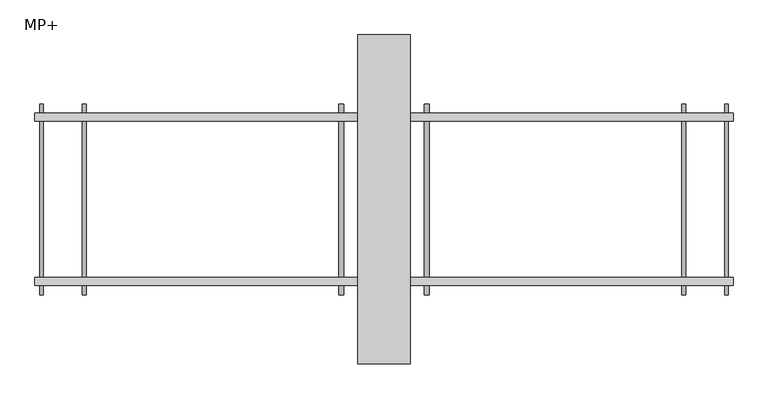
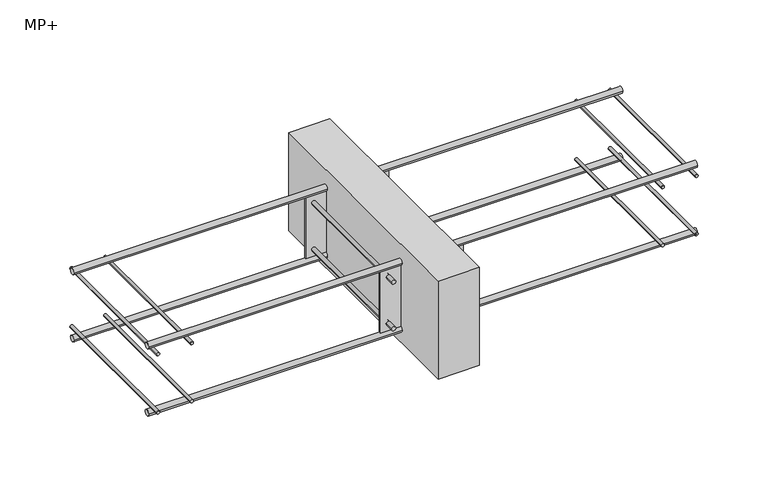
"""IFC4 building model written with IfcOpenShell, lengths in millimetres: fastener geometry, ACINOXplus_Typenreihe_M : MP+."""

from ifc_helpers import new_model, si_unit, point, frame, frame_2d, origin, place, context, project, spatial, polyline, circle_curve, trimmed, segment, composite_curve, outline, extrude, source, transform, mapped, element, save


def mp_b869bb2f(model_context):
    return source(origin(), model_context, "Body", "SweptSolid", [
        extrude(outline(polyline([(40.0, 250.0), (40.0, -250.0), (-40.0, -250.0), (-40.0, 250.0), (40.0, 250.0)])), frame((0.0, 0.0, -200.0), z_axis=(0.0, 0.0, 1.0), x_axis=(1.0, 0.0, 0.0)), (0.0, 0.0, 1.0), 200.0),
        extrude(outline(polyline([(80.0, -123.5), (80.0, -126.5), (-80.0, -126.5), (-80.0, -123.5), (80.0, -123.5)])), frame((0.0, 0.0, -167.0), z_axis=(0.0, 0.0, 1.0), x_axis=(1.0, 0.0, 0.0)), (0.0, 0.0, 1.0), 125.0),
        extrude(outline(polyline([(80.0, 126.5), (80.0, 123.5), (-80.0, 123.5), (-80.0, 126.5), (80.0, 126.5)])), frame((0.0, 0.0, -167.0), z_axis=(0.0, 0.0, 1.0), x_axis=(1.0, 0.0, 0.0)), (0.0, 0.0, 1.0), 125.0),
        extrude(outline(composite_curve([segment(trimmed(circle_curve(frame_2d((-152.0, -65.0)), 4.0), [point((-152.0, -69.0))], [point((-152.0, -61.0))], False, "CARTESIAN"), True, "CONTINUOUS"), segment(trimmed(circle_curve(frame_2d((-152.0, -65.0)), 4.0), [point((-152.0, -61.0))], [point((-152.0, -69.0))], False, "CARTESIAN"), True, "CONTINUOUS")], self_intersect=False)), frame((0.0, 126.5, 0.0), z_axis=(0.0, 1.0, 0.0), x_axis=(0.0, 0.0, 1.0)), (0.0, 0.0, 1.0), 18.5),
        extrude(outline(composite_curve([segment(trimmed(circle_curve(frame_2d((-152.0, -65.0)), 4.0), [point((-152.0, -61.0))], [point((-152.0, -69.0))], False, "CARTESIAN"), True, "CONTINUOUS"), segment(trimmed(circle_curve(frame_2d((-152.0, -65.0)), 4.0), [point((-152.0, -69.0))], [point((-152.0, -61.0))], False, "CARTESIAN"), True, "CONTINUOUS")], self_intersect=False)), frame((0.0, -145.0, 0.0), z_axis=(0.0, 1.0, 0.0), x_axis=(0.0, 0.0, 1.0)), (0.0, 0.0, 1.0), 18.5),
        extrude(outline(composite_curve([segment(trimmed(circle_curve(frame_2d((-152.0, -65.0)), 4.0), [point((-152.0, -69.0))], [point((-152.0, -61.0))], False, "CARTESIAN"), True, "CONTINUOUS"), segment(trimmed(circle_curve(frame_2d((-152.0, -65.0)), 4.0), [point((-152.0, -61.0))], [point((-152.0, -69.0))], False, "CARTESIAN"), True, "CONTINUOUS")], self_intersect=False)), frame((0.0, -123.5, 0.0), z_axis=(0.0, 1.0, 0.0), x_axis=(0.0, 0.0, 1.0)), (0.0, 0.0, 1.0), 247.0),
        extrude(outline(composite_curve([segment(trimmed(circle_curve(frame_2d((-152.0, 65.0)), 4.0), [point((-152.0, 61.0))], [point((-152.0, 69.0))], False, "CARTESIAN"), True, "CONTINUOUS"), segment(trimmed(circle_curve(frame_2d((-152.0, 65.0)), 4.0), [point((-152.0, 69.0))], [point((-152.0, 61.0))], False, "CARTESIAN"), True, "CONTINUOUS")], self_intersect=False)), frame((0.0, 126.5, 0.0), z_axis=(0.0, 1.0, 0.0), x_axis=(0.0, 0.0, 1.0)), (0.0, 0.0, 1.0), 18.5),
        extrude(outline(composite_curve([segment(trimmed(circle_curve(frame_2d((-152.0, 65.0)), 4.0), [point((-152.0, 69.0))], [point((-152.0, 61.0))], False, "CARTESIAN"), True, "CONTINUOUS"), segment(trimmed(circle_curve(frame_2d((-152.0, 65.0)), 4.0), [point((-152.0, 61.0))], [point((-152.0, 69.0))], False, "CARTESIAN"), True, "CONTINUOUS")], self_intersect=False)), frame((0.0, -145.0, 0.0), z_axis=(0.0, 1.0, 0.0), x_axis=(0.0, 0.0, 1.0)), (0.0, 0.0, 1.0), 18.5),
        extrude(outline(composite_curve([segment(trimmed(circle_curve(frame_2d((-152.0, 65.0)), 4.0), [point((-152.0, 61.0))], [point((-152.0, 69.0))], False, "CARTESIAN"), True, "CONTINUOUS"), segment(trimmed(circle_curve(frame_2d((-152.0, 65.0)), 4.0), [point((-152.0, 69.0))], [point((-152.0, 61.0))], False, "CARTESIAN"), True, "CONTINUOUS")], self_intersect=False)), frame((0.0, -123.5, 0.0), z_axis=(0.0, 1.0, 0.0), x_axis=(0.0, 0.0, 1.0)), (0.0, 0.0, 1.0), 247.0),
        extrude(outline(composite_curve([segment(trimmed(circle_curve(frame_2d((-57.0, -65.0)), 4.0), [point((-57.0, -69.0))], [point((-57.0, -61.0))], False, "CARTESIAN"), True, "CONTINUOUS"), segment(trimmed(circle_curve(frame_2d((-57.0, -65.0)), 4.0), [point((-57.0, -61.0))], [point((-57.0, -69.0))], False, "CARTESIAN"), True, "CONTINUOUS")], self_intersect=False)), frame((0.0, 126.5, 0.0), z_axis=(0.0, 1.0, 0.0), x_axis=(0.0, 0.0, 1.0)), (0.0, 0.0, 1.0), 18.5),
        extrude(outline(composite_curve([segment(trimmed(circle_curve(frame_2d((-57.0, -65.0)), 4.0), [point((-57.0, -61.0))], [point((-57.0, -69.0))], False, "CARTESIAN"), True, "CONTINUOUS"), segment(trimmed(circle_curve(frame_2d((-57.0, -65.0)), 4.0), [point((-57.0, -69.0))], [point((-57.0, -61.0))], False, "CARTESIAN"), True, "CONTINUOUS")], self_intersect=False)), frame((0.0, -145.0, 0.0), z_axis=(0.0, 1.0, 0.0), x_axis=(0.0, 0.0, 1.0)), (0.0, 0.0, 1.0), 18.5),
        extrude(outline(composite_curve([segment(trimmed(circle_curve(frame_2d((-57.0, -65.0)), 4.0), [point((-57.0, -69.0))], [point((-57.0, -61.0))], False, "CARTESIAN"), True, "CONTINUOUS"), segment(trimmed(circle_curve(frame_2d((-57.0, -65.0)), 4.0), [point((-57.0, -61.0))], [point((-57.0, -69.0))], False, "CARTESIAN"), True, "CONTINUOUS")], self_intersect=False)), frame((0.0, -123.5, 0.0), z_axis=(0.0, 1.0, 0.0), x_axis=(0.0, 0.0, 1.0)), (0.0, 0.0, 1.0), 247.0),
        extrude(outline(composite_curve([segment(trimmed(circle_curve(frame_2d((-57.0, 65.0)), 4.0), [point((-57.0, 61.0))], [point((-57.0, 69.0))], False, "CARTESIAN"), True, "CONTINUOUS"), segment(trimmed(circle_curve(frame_2d((-57.0, 65.0)), 4.0), [point((-57.0, 69.0))], [point((-57.0, 61.0))], False, "CARTESIAN"), True, "CONTINUOUS")], self_intersect=False)), frame((0.0, 126.5, 0.0), z_axis=(0.0, 1.0, 0.0), x_axis=(0.0, 0.0, 1.0)), (0.0, 0.0, 1.0), 18.5),
        extrude(outline(composite_curve([segment(trimmed(circle_curve(frame_2d((-57.0, 65.0)), 4.0), [point((-57.0, 69.0))], [point((-57.0, 61.0))], False, "CARTESIAN"), True, "CONTINUOUS"), segment(trimmed(circle_curve(frame_2d((-57.0, 65.0)), 4.0), [point((-57.0, 61.0))], [point((-57.0, 69.0))], False, "CARTESIAN"), True, "CONTINUOUS")], self_intersect=False)), frame((0.0, -145.0, 0.0), z_axis=(0.0, 1.0, 0.0), x_axis=(0.0, 0.0, 1.0)), (0.0, 0.0, 1.0), 18.5),
        extrude(outline(composite_curve([segment(trimmed(circle_curve(frame_2d((-57.0, 65.0)), 4.0), [point((-57.0, 61.0))], [point((-57.0, 69.0))], False, "CARTESIAN"), True, "CONTINUOUS"), segment(trimmed(circle_curve(frame_2d((-57.0, 65.0)), 4.0), [point((-57.0, 69.0))], [point((-57.0, 61.0))], False, "CARTESIAN"), True, "CONTINUOUS")], self_intersect=False)), frame((0.0, -123.5, 0.0), z_axis=(0.0, 1.0, 0.0), x_axis=(0.0, 0.0, 1.0)), (0.0, 0.0, 1.0), 247.0),
        extrude(outline(composite_curve([segment(trimmed(circle_curve(frame_2d((125.0, -173.0)), 6.0), [point((119.0, -173.0))], [point((131.0, -173.0))], False, "CARTESIAN"), True, "CONTINUOUS"), segment(trimmed(circle_curve(frame_2d((125.0, -173.0)), 6.0), [point((131.0, -173.0))], [point((119.0, -173.0))], False, "CARTESIAN"), True, "CONTINUOUS")], self_intersect=False)), frame((-530.0, 0.0, 0.0), z_axis=(1.0, 0.0, 0.0), x_axis=(0.0, 1.0, 0.0)), (0.0, 0.0, 1.0), 1060.0),
        extrude(outline(composite_curve([segment(trimmed(circle_curve(frame_2d((-125.0, -173.0)), 6.0), [point((-131.0, -173.0))], [point((-119.0, -173.0))], False, "CARTESIAN"), True, "CONTINUOUS"), segment(trimmed(circle_curve(frame_2d((-125.0, -173.0)), 6.0), [point((-119.0, -173.0))], [point((-131.0, -173.0))], False, "CARTESIAN"), True, "CONTINUOUS")], self_intersect=False)), frame((-530.0, 0.0, 0.0), z_axis=(1.0, 0.0, 0.0), x_axis=(0.0, 1.0, 0.0)), (0.0, 0.0, 1.0), 1060.0),
        extrude(outline(composite_curve([segment(trimmed(circle_curve(frame_2d((125.0, -36.0)), 6.0), [point((119.0, -36.0))], [point((131.0, -36.0))], False, "CARTESIAN"), True, "CONTINUOUS"), segment(trimmed(circle_curve(frame_2d((125.0, -36.0)), 6.0), [point((131.0, -36.0))], [point((119.0, -36.0))], False, "CARTESIAN"), True, "CONTINUOUS")], self_intersect=False)), frame((-530.0, 0.0, 0.0), z_axis=(1.0, 0.0, 0.0), x_axis=(0.0, 1.0, 0.0)), (0.0, 0.0, 1.0), 1060.0),
        extrude(outline(composite_curve([segment(trimmed(circle_curve(frame_2d((-125.0, -36.0)), 6.0), [point((-131.0, -36.0))], [point((-119.0, -36.0))], False, "CARTESIAN"), True, "CONTINUOUS"), segment(trimmed(circle_curve(frame_2d((-125.0, -36.0)), 6.0), [point((-119.0, -36.0))], [point((-131.0, -36.0))], False, "CARTESIAN"), True, "CONTINUOUS")], self_intersect=False)), frame((-530.0, 0.0, 0.0), z_axis=(1.0, 0.0, 0.0), x_axis=(0.0, 1.0, 0.0)), (0.0, 0.0, 1.0), 1060.0),
        extrude(outline(composite_curve([segment(trimmed(circle_curve(frame_2d((-164.0, -520.0)), 3.0), [point((-164.0, -517.0))], [point((-164.0, -523.0))], False, "CARTESIAN"), True, "CONTINUOUS"), segment(trimmed(circle_curve(frame_2d((-164.0, -520.0)), 3.0), [point((-164.0, -523.0))], [point((-164.0, -517.0))], False, "CARTESIAN"), True, "CONTINUOUS")], self_intersect=False)), frame((0.0, -145.0, 0.0), z_axis=(0.0, 1.0, 0.0), x_axis=(0.0, 0.0, 1.0)), (0.0, 0.0, 1.0), 290.0),
        extrude(outline(composite_curve([segment(trimmed(circle_curve(frame_2d((-164.0, -455.0)), 3.0), [point((-164.0, -452.0))], [point((-164.0, -458.0))], False, "CARTESIAN"), True, "CONTINUOUS"), segment(trimmed(circle_curve(frame_2d((-164.0, -455.0)), 3.0), [point((-164.0, -458.0))], [point((-164.0, -452.0))], False, "CARTESIAN"), True, "CONTINUOUS")], self_intersect=False)), frame((0.0, -145.0, 0.0), z_axis=(0.0, 1.0, 0.0), x_axis=(0.0, 0.0, 1.0)), (0.0, 0.0, 1.0), 290.0),
        extrude(outline(composite_curve([segment(trimmed(circle_curve(frame_2d((-164.0, 455.0)), 3.0), [point((-164.0, 458.0))], [point((-164.0, 452.0))], False, "CARTESIAN"), True, "CONTINUOUS"), segment(trimmed(circle_curve(frame_2d((-164.0, 455.0)), 3.0), [point((-164.0, 452.0))], [point((-164.0, 458.0))], False, "CARTESIAN"), True, "CONTINUOUS")], self_intersect=False)), frame((0.0, -145.0, 0.0), z_axis=(0.0, 1.0, 0.0), x_axis=(0.0, 0.0, 1.0)), (0.0, 0.0, 1.0), 290.0),
        extrude(outline(composite_curve([segment(trimmed(circle_curve(frame_2d((-164.0, 520.0)), 3.0), [point((-164.0, 523.0))], [point((-164.0, 517.0))], False, "CARTESIAN"), True, "CONTINUOUS"), segment(trimmed(circle_curve(frame_2d((-164.0, 520.0)), 3.0), [point((-164.0, 517.0))], [point((-164.0, 523.0))], False, "CARTESIAN"), True, "CONTINUOUS")], self_intersect=False)), frame((0.0, -145.0, 0.0), z_axis=(0.0, 1.0, 0.0), x_axis=(0.0, 0.0, 1.0)), (0.0, 0.0, 1.0), 290.0),
        extrude(outline(composite_curve([segment(trimmed(circle_curve(frame_2d((-45.0, 455.0)), 3.0), [point((-45.0, 458.0))], [point((-45.0, 452.0))], False, "CARTESIAN"), True, "CONTINUOUS"), segment(trimmed(circle_curve(frame_2d((-45.0, 455.0)), 3.0), [point((-45.0, 452.0))], [point((-45.0, 458.0))], False, "CARTESIAN"), True, "CONTINUOUS")], self_intersect=False)), frame((0.0, -145.0, 0.0), z_axis=(0.0, 1.0, 0.0), x_axis=(0.0, 0.0, 1.0)), (0.0, 0.0, 1.0), 290.0),
        extrude(outline(composite_curve([segment(trimmed(circle_curve(frame_2d((-45.0, 520.0)), 3.0), [point((-45.0, 523.0))], [point((-45.0, 517.0))], False, "CARTESIAN"), True, "CONTINUOUS"), segment(trimmed(circle_curve(frame_2d((-45.0, 520.0)), 3.0), [point((-45.0, 517.0))], [point((-45.0, 523.0))], False, "CARTESIAN"), True, "CONTINUOUS")], self_intersect=False)), frame((0.0, -145.0, 0.0), z_axis=(0.0, 1.0, 0.0), x_axis=(0.0, 0.0, 1.0)), (0.0, 0.0, 1.0), 290.0),
        extrude(outline(composite_curve([segment(trimmed(circle_curve(frame_2d((-45.0, -520.0)), 3.0), [point((-45.0, -517.0))], [point((-45.0, -523.0))], False, "CARTESIAN"), True, "CONTINUOUS"), segment(trimmed(circle_curve(frame_2d((-45.0, -520.0)), 3.0), [point((-45.0, -523.0))], [point((-45.0, -517.0))], False, "CARTESIAN"), True, "CONTINUOUS")], self_intersect=False)), frame((0.0, -145.0, 0.0), z_axis=(0.0, 1.0, 0.0), x_axis=(0.0, 0.0, 1.0)), (0.0, 0.0, 1.0), 290.0),
        extrude(outline(composite_curve([segment(trimmed(circle_curve(frame_2d((-45.0, -455.0)), 3.0), [point((-45.0, -452.0))], [point((-45.0, -458.0))], False, "CARTESIAN"), True, "CONTINUOUS"), segment(trimmed(circle_curve(frame_2d((-45.0, -455.0)), 3.0), [point((-45.0, -458.0))], [point((-45.0, -452.0))], False, "CARTESIAN"), True, "CONTINUOUS")], self_intersect=False)), frame((0.0, -145.0, 0.0), z_axis=(0.0, 1.0, 0.0), x_axis=(0.0, 0.0, 1.0)), (0.0, 0.0, 1.0), 290.0),
    ])


if __name__ == "__main__":
    model = new_model("IFC4")
    model_context = context("Model", 3, world=origin())
    ifc_project = project(units=[si_unit("LENGTHUNIT", "METRE", prefix="MILLI")], contexts=[model_context])
    site = spatial("IfcSite", under=ifc_project)
    building = spatial("IfcBuilding", under=site)
    placement = place(None, origin())
    mp_shape = mp_b869bb2f(model_context)
    element("IfcFastener", 1, ObjectType="ACINOXplus_Typenreihe_M : MP+", at=placement, inside=building, context=model_context, shape_type="MappedRepresentation", body=[
        mapped(mp_shape, transform((0.0, 0.0, 0.0), x_axis=(1.0, 0.0, 0.0), y_axis=(0.0, 1.0, 0.0), z_axis=(0.0, 0.0, 1.0))),
    ])
    save(model, "model.ifc")
